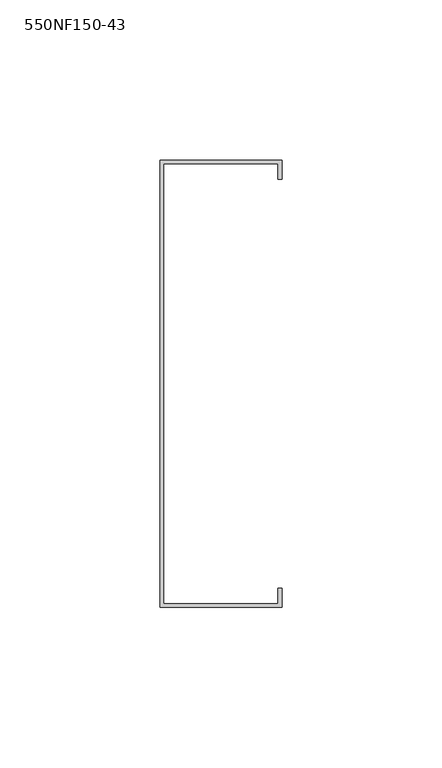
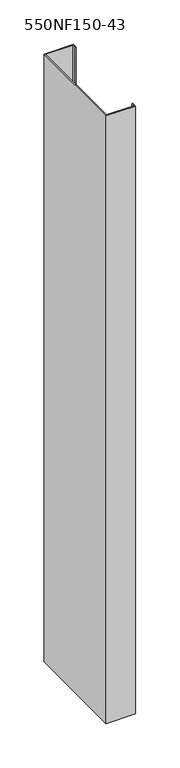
"""IFC4 building model written with IfcOpenShell, lengths in millimetres: column geometry, BIMSF-SSMA-S-Column : 550NF150-43."""

from ifc_helpers import new_model, si_unit, frame, origin, place, context, project, spatial, polyline, outline, extrude, source, transform, mapped, element, save


def column_550nf150_43_9fc12009(model_context):
    return source(origin(), model_context, "Body", "SweptSolid", [
        extrude(outline(polyline([(-11.9977877, -80.5871249), (-11.9977877, 59.1128751), (26.1022123, 59.1128751), (26.1022123, 53.1879908), (24.952528, 53.1879908), (24.952528, 57.9631908), (-10.8481035, 57.9631908), (-10.8481035, -79.4374407), (24.952528, -79.4374407), (24.952528, -74.6622407), (26.1022123, -74.6622407), (26.1022123, -80.5871249), (-11.9977877, -80.5871249)])), frame((0.0, 0.0, 5525.3929688), z_axis=(0.0, 0.0, 1.0), x_axis=(1.0, 0.0, 0.0)), (0.0, 0.0, 1.0), 835.6332427),
    ])


if __name__ == "__main__":
    model = new_model("IFC4")
    model_context = context("Model", 3, world=origin())
    ifc_project = project(units=[si_unit("LENGTHUNIT", "METRE", prefix="MILLI")], contexts=[model_context])
    site = spatial("IfcSite", under=ifc_project)
    building = spatial("IfcBuilding", under=site)
    placement = place(None, origin())
    column_550nf150_43_shape = column_550nf150_43_9fc12009(model_context)
    element("IfcColumn", 1, ObjectType="BIMSF-SSMA-S-Column : 550NF150-43", at=placement, inside=building, context=model_context, shape_type="MappedRepresentation", body=[
        mapped(column_550nf150_43_shape, transform((0.0, 0.0, 0.0), x_axis=(1.0, 0.0, 0.0), y_axis=(0.0, 1.0, 0.0), z_axis=(0.0, 0.0, 1.0))),
    ])
    save(model, "model.ifc")
